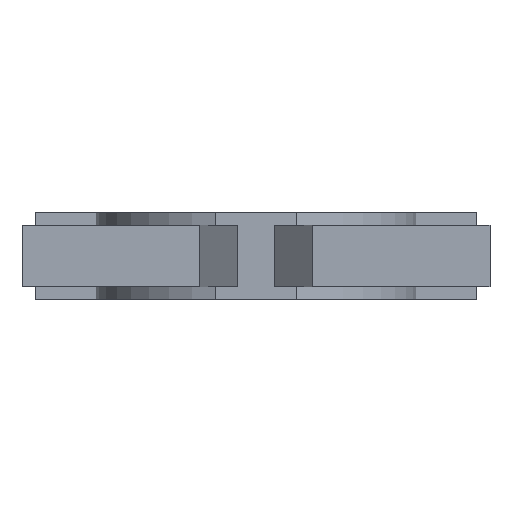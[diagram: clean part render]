
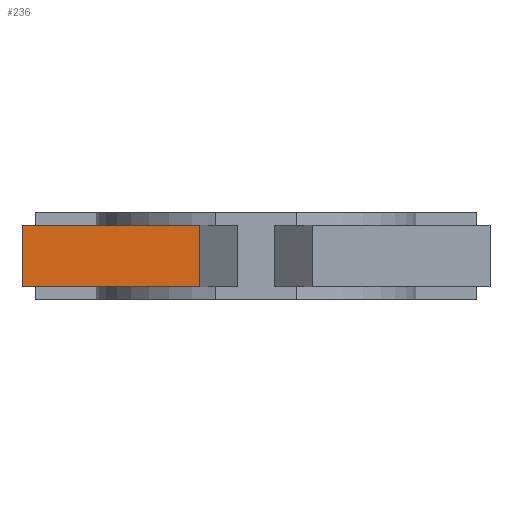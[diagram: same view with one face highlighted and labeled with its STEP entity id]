
A CAD part, front view. The second image highlights one B-rep face of the part: STEP entity #236.
In plain terms, the highlighted planar face has unit normal (0, -1, 0).
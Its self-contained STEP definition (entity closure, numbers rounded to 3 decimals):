
#236 = ADVANCED_FACE( '', ( #493 ), #494, .F. );
#493 = FACE_OUTER_BOUND( '', #820, .T. );
#494 = PLANE( '', #821 );
#820 = EDGE_LOOP( '', ( #1444, #1445, #1446, #1447 ) );
#821 = AXIS2_PLACEMENT_3D( '', #1448, #1449, #1450 );
#1444 = ORIENTED_EDGE( '', *, *, #1765, .T. );
#1445 = ORIENTED_EDGE( '', *, *, #1749, .F. );
#1446 = ORIENTED_EDGE( '', *, *, #1676, .F. );
#1447 = ORIENTED_EDGE( '', *, *, #1767, .T. );
#1448 = CARTESIAN_POINT( '', ( -38., -97.23, 5. ) );
#1449 = DIRECTION( '', ( 0., 1., 0. ) );
#1450 = DIRECTION( '', ( 0., 0., 1. ) );
#1676 = EDGE_CURVE( '', #2035, #2037, #2038, .T. );
#1749 = EDGE_CURVE( '', #2037, #2140, #2142, .T. );
#1765 = EDGE_CURVE( '', #2160, #2140, #2163, .T. );
#1767 = EDGE_CURVE( '', #2035, #2160, #2165, .T. );
#2035 = VERTEX_POINT( '', #2588 );
#2037 = VERTEX_POINT( '', #2591 );
#2038 = LINE( '', #2592, #2593 );
#2140 = VERTEX_POINT( '', #2750 );
#2142 = LINE( '', #2753, #2754 );
#2160 = VERTEX_POINT( '', #2776 );
#2163 = LINE( '', #2781, #2782 );
#2165 = LINE( '', #2784, #2785 );
#2588 = CARTESIAN_POINT( '', ( -38., -97.23, 5. ) );
#2591 = CARTESIAN_POINT( '', ( -9.118, -97.23, 5. ) );
#2592 = CARTESIAN_POINT( '', ( -38., -97.23, 5. ) );
#2593 = VECTOR( '', #3000, 1000. );
#2750 = CARTESIAN_POINT( '', ( -9.118, -97.23, -5. ) );
#2753 = CARTESIAN_POINT( '', ( -9.118, -97.23, 5. ) );
#2754 = VECTOR( '', #3066, 1000. );
#2776 = CARTESIAN_POINT( '', ( -38., -97.23, -5. ) );
#2781 = CARTESIAN_POINT( '', ( -38., -97.23, -5. ) );
#2782 = VECTOR( '', #3082, 1000. );
#2784 = CARTESIAN_POINT( '', ( -38., -97.23, 5. ) );
#2785 = VECTOR( '', #3083, 1000. );
#3000 = DIRECTION( '', ( 1., 0., 0. ) );
#3066 = DIRECTION( '', ( 0., 0., -1. ) );
#3082 = DIRECTION( '', ( 1., 0., 0. ) );
#3083 = DIRECTION( '', ( 0., 0., -1. ) );
